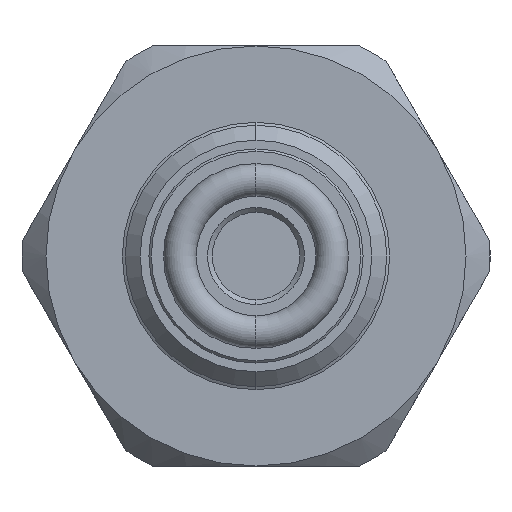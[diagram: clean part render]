
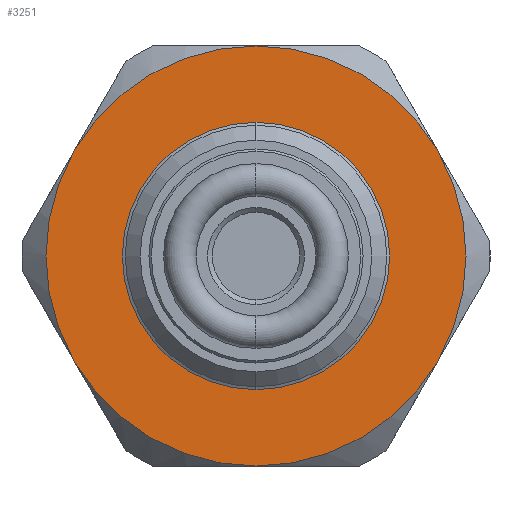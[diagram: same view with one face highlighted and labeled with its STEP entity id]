
A CAD part, left-side view. The second image highlights one B-rep face of the part: STEP entity #3251.
In plain terms, the highlighted planar face has unit normal (-1, 0, 0).
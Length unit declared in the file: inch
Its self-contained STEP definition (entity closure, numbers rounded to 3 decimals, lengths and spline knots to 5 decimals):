
#78 = VERTEX_POINT ( 'NONE', #4205 ) ;
#80 = VERTEX_POINT ( 'NONE', #4203 ) ;
#109 = VERTEX_POINT ( 'NONE', #3580 ) ;
#208 = VERTEX_POINT ( 'NONE', #5210 ) ;
#211 = VERTEX_POINT ( 'NONE', #5137 ) ;
#214 = VERTEX_POINT ( 'NONE', #5165 ) ;
#219 = VERTEX_POINT ( 'NONE', #5186 ) ;
#351 = VERTEX_POINT ( 'NONE', #5172 ) ;
#357 = EDGE_LOOP ( 'NONE', ( #626, #633 ) ) ;
#419 = EDGE_LOOP ( 'NONE', ( #610, #607, #604, #618, #576, #577 ) ) ;
#576 = ORIENTED_EDGE ( 'NONE', *, *, #4992, .T. ) ;
#577 = ORIENTED_EDGE ( 'NONE', *, *, #3315, .T. ) ;
#604 = ORIENTED_EDGE ( 'NONE', *, *, #4900, .T. ) ;
#607 = ORIENTED_EDGE ( 'NONE', *, *, #3377, .T. ) ;
#610 = ORIENTED_EDGE ( 'NONE', *, *, #4993, .T. ) ;
#618 = ORIENTED_EDGE ( 'NONE', *, *, #4935, .T. ) ;
#626 = ORIENTED_EDGE ( 'NONE', *, *, #4752, .T. ) ;
#633 = ORIENTED_EDGE ( 'NONE', *, *, #4860, .T. ) ;
#767 = DIRECTION ( 'NONE',  ( -1., 0., 0. ) ) ;
#776 = CARTESIAN_POINT ( 'NONE',  ( 0.6175, 0., 0. ) ) ;
#791 = DIRECTION ( 'NONE',  ( 0., 0., 1. ) ) ;
#883 = CIRCLE ( 'NONE', #1187, 0.4375 ) ;
#913 = CIRCLE ( 'NONE', #938, 0.271 ) ;
#938 = AXIS2_PLACEMENT_3D ( 'NONE', #4673, #4552, #4607 ) ;
#1013 = CIRCLE ( 'NONE', #1122, 0.4375 ) ;
#1019 = CIRCLE ( 'NONE', #1202, 0.4375 ) ;
#1040 = AXIS2_PLACEMENT_3D ( 'NONE', #3122, #3121, #3119 ) ;
#1121 = CIRCLE ( 'NONE', #1040, 0.4375 ) ;
#1122 = AXIS2_PLACEMENT_3D ( 'NONE', #2954, #2953, #2952 ) ;
#1187 = AXIS2_PLACEMENT_3D ( 'NONE', #2784, #2782, #2772 ) ;
#1202 = AXIS2_PLACEMENT_3D ( 'NONE', #3058, #2812, #2808 ) ;
#1204 = DIRECTION ( 'NONE',  ( 0., 0., 1. ) ) ;
#1205 = DIRECTION ( 'NONE',  ( -1., 0., 0. ) ) ;
#1206 = CARTESIAN_POINT ( 'NONE',  ( 0.6175, 0., 0. ) ) ;
#1320 = DIRECTION ( 'NONE',  ( 0., 0., 1. ) ) ;
#1322 = DIRECTION ( 'NONE',  ( -1., 0., 0. ) ) ;
#1323 = PLANE ( 'NONE',  #2451 ) ;
#1324 = FACE_OUTER_BOUND ( 'NONE', #419, .T. ) ;
#1331 = FACE_BOUND ( 'NONE', #357, .T. ) ;
#1338 = CARTESIAN_POINT ( 'NONE',  ( 0.6175, 0., 0. ) ) ;
#2241 = CIRCLE ( 'NONE', #2381, 0.271 ) ;
#2269 = CIRCLE ( 'NONE', #2685, 0.4375 ) ;
#2300 = CIRCLE ( 'NONE', #2508, 0.4375 ) ;
#2381 = AXIS2_PLACEMENT_3D ( 'NONE', #4401, #4495, #4438 ) ;
#2451 = AXIS2_PLACEMENT_3D ( 'NONE', #1338, #1322, #1320 ) ;
#2508 = AXIS2_PLACEMENT_3D ( 'NONE', #776, #767, #791 ) ;
#2685 = AXIS2_PLACEMENT_3D ( 'NONE', #1206, #1205, #1204 ) ;
#2772 = DIRECTION ( 'NONE',  ( 0., 0., 1. ) ) ;
#2782 = DIRECTION ( 'NONE',  ( -1., 0., 0. ) ) ;
#2784 = CARTESIAN_POINT ( 'NONE',  ( 0.6175, 0., 0. ) ) ;
#2808 = DIRECTION ( 'NONE',  ( 0., 0., 1. ) ) ;
#2812 = DIRECTION ( 'NONE',  ( -1., 0., 0. ) ) ;
#2952 = DIRECTION ( 'NONE',  ( 0., 0., 1. ) ) ;
#2953 = DIRECTION ( 'NONE',  ( -1., 0., 0. ) ) ;
#2954 = CARTESIAN_POINT ( 'NONE',  ( 0.6175, 0., 0. ) ) ;
#3058 = CARTESIAN_POINT ( 'NONE',  ( 0.6175, 0., 0. ) ) ;
#3119 = DIRECTION ( 'NONE',  ( 0., 0., 1. ) ) ;
#3121 = DIRECTION ( 'NONE',  ( -1., 0., 0. ) ) ;
#3122 = CARTESIAN_POINT ( 'NONE',  ( 0.6175, 0., 0. ) ) ;
#3251 = ADVANCED_FACE ( 'NONE', ( #1331, #1324 ), #1323, .T. ) ;
#3315 = EDGE_CURVE ( 'NONE', #214, #109, #2300, .T. ) ;
#3377 = EDGE_CURVE ( 'NONE', #211, #208, #2269, .T. ) ;
#3580 = CARTESIAN_POINT ( 'NONE',  ( 0.6175, -0.37889, 0.21875 ) ) ;
#4203 = CARTESIAN_POINT ( 'NONE',  ( 0.6175, 0., 0.271 ) ) ;
#4205 = CARTESIAN_POINT ( 'NONE',  ( 0.6175, 0., -0.4375 ) ) ;
#4401 = CARTESIAN_POINT ( 'NONE',  ( 0.6175, 0., 0. ) ) ;
#4438 = DIRECTION ( 'NONE',  ( 0., 0., 1. ) ) ;
#4495 = DIRECTION ( 'NONE',  ( 1., 0., 0. ) ) ;
#4552 = DIRECTION ( 'NONE',  ( 1., 0., 0. ) ) ;
#4607 = DIRECTION ( 'NONE',  ( 0., 0., 1. ) ) ;
#4673 = CARTESIAN_POINT ( 'NONE',  ( 0.6175, 0., 0. ) ) ;
#4752 = EDGE_CURVE ( 'NONE', #80, #351, #2241, .T. ) ;
#4860 = EDGE_CURVE ( 'NONE', #351, #80, #913, .T. ) ;
#4900 = EDGE_CURVE ( 'NONE', #208, #219, #1121, .T. ) ;
#4935 = EDGE_CURVE ( 'NONE', #219, #78, #1013, .T. ) ;
#4992 = EDGE_CURVE ( 'NONE', #78, #214, #883, .T. ) ;
#4993 = EDGE_CURVE ( 'NONE', #109, #211, #1019, .T. ) ;
#5137 = CARTESIAN_POINT ( 'NONE',  ( 0.6175, 0., 0.4375 ) ) ;
#5165 = CARTESIAN_POINT ( 'NONE',  ( 0.6175, -0.37889, -0.21875 ) ) ;
#5172 = CARTESIAN_POINT ( 'NONE',  ( 0.6175, 0., -0.271 ) ) ;
#5186 = CARTESIAN_POINT ( 'NONE',  ( 0.6175, 0.37889, -0.21875 ) ) ;
#5210 = CARTESIAN_POINT ( 'NONE',  ( 0.6175, 0.37889, 0.21875 ) ) ;
